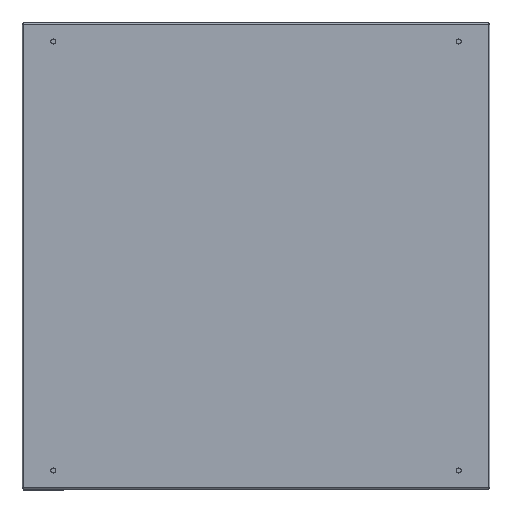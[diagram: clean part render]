
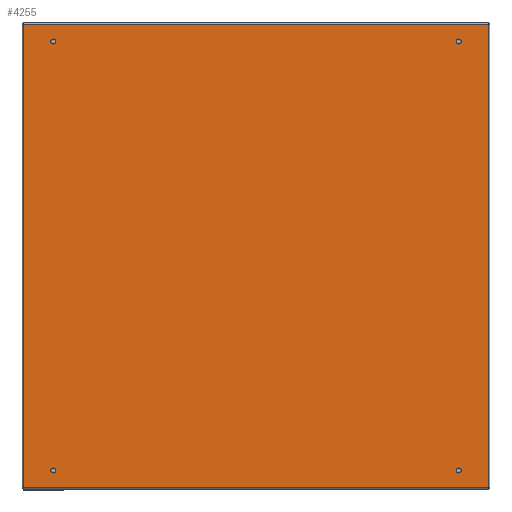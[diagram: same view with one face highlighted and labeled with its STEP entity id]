
A CAD part, front view. The second image highlights one B-rep face of the part: STEP entity #4255.
In plain terms, the highlighted planar face has unit normal (0, -1, 0).
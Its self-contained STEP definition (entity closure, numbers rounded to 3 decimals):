
#48 = AXIS2_PLACEMENT_3D ( 'NONE', #631, #7731, #7818 ) ;
#219 = VECTOR ( 'NONE', #1677, 1000. ) ;
#253 = CIRCLE ( 'NONE', #9422, 3.25 ) ;
#308 = CARTESIAN_POINT ( 'NONE',  ( 297.8, 0., -296.8 ) ) ;
#312 = CIRCLE ( 'NONE', #10529, 3.25 ) ;
#330 = CARTESIAN_POINT ( 'NONE',  ( 297.8, 0., 296.8 ) ) ;
#631 = CARTESIAN_POINT ( 'NONE',  ( -260., 0., 275. ) ) ;
#857 = DIRECTION ( 'NONE',  ( -1., 0., 0. ) ) ;
#915 = CARTESIAN_POINT ( 'NONE',  ( -297.8, 0., -296.8 ) ) ;
#940 = DIRECTION ( 'NONE',  ( 0., 1., 0. ) ) ;
#1231 = DIRECTION ( 'NONE',  ( -1., 0., 0. ) ) ;
#1263 = CARTESIAN_POINT ( 'NONE',  ( 297.8, 0., -296.8 ) ) ;
#1343 = DIRECTION ( 'NONE',  ( 0., 0., 1. ) ) ;
#1460 = ORIENTED_EDGE ( 'NONE', *, *, #8075, .T. ) ;
#1484 = CARTESIAN_POINT ( 'NONE',  ( -263.25, 0., -275. ) ) ;
#1516 = CARTESIAN_POINT ( 'NONE',  ( 260., 0., 275. ) ) ;
#1522 = CARTESIAN_POINT ( 'NONE',  ( -297.8, 0., -299. ) ) ;
#1549 = ORIENTED_EDGE ( 'NONE', *, *, #3512, .T. ) ;
#1573 = DIRECTION ( 'NONE',  ( 0., 1., 0. ) ) ;
#1677 = DIRECTION ( 'NONE',  ( 1., 0., 0. ) ) ;
#1757 = FACE_BOUND ( 'NONE', #6972, .T. ) ;
#1905 = CARTESIAN_POINT ( 'NONE',  ( -297.8, 0., -296.8 ) ) ;
#2018 = EDGE_LOOP ( 'NONE', ( #7969, #11475, #5929, #9645 ) ) ;
#2531 = EDGE_CURVE ( 'NONE', #6695, #4219, #4024, .T. ) ;
#2709 = LINE ( 'NONE', #1263, #5961 ) ;
#2750 = DIRECTION ( 'NONE',  ( -1., 0., 0. ) ) ;
#2878 = FACE_BOUND ( 'NONE', #8338, .T. ) ;
#2989 = CIRCLE ( 'NONE', #8551, 3.25 ) ;
#3113 = CARTESIAN_POINT ( 'NONE',  ( 260., 0., -275. ) ) ;
#3171 = LINE ( 'NONE', #915, #219 ) ;
#3220 = CARTESIAN_POINT ( 'NONE',  ( 263.25, 0., 275. ) ) ;
#3319 = AXIS2_PLACEMENT_3D ( 'NONE', #1516, #8303, #1231 ) ;
#3402 = ORIENTED_EDGE ( 'NONE', *, *, #8201, .T. ) ;
#3421 = DIRECTION ( 'NONE',  ( 0., 1., 0. ) ) ;
#3454 = EDGE_CURVE ( 'NONE', #4219, #6695, #253, .T. ) ;
#3512 = EDGE_CURVE ( 'NONE', #11310, #6398, #7029, .T. ) ;
#3564 = FACE_BOUND ( 'NONE', #9078, .T. ) ;
#3583 = EDGE_CURVE ( 'NONE', #6398, #11310, #3890, .T. ) ;
#3656 = CARTESIAN_POINT ( 'NONE',  ( 260., 0., -275. ) ) ;
#3669 = EDGE_CURVE ( 'NONE', #10240, #6084, #11421, .T. ) ;
#3692 = CIRCLE ( 'NONE', #48, 3.25 ) ;
#3762 = ORIENTED_EDGE ( 'NONE', *, *, #2531, .T. ) ;
#3890 = CIRCLE ( 'NONE', #3319, 3.25 ) ;
#3893 = VECTOR ( 'NONE', #5270, 1000. ) ;
#4024 = CIRCLE ( 'NONE', #11529, 3.25 ) ;
#4094 = CARTESIAN_POINT ( 'NONE',  ( 263.25, 0., -275. ) ) ;
#4219 = VERTEX_POINT ( 'NONE', #1484 ) ;
#4255 = ADVANCED_FACE ( 'NONE', ( #8109, #10121, #1757, #3564, #2878 ), #5998, .T. ) ;
#4305 = CARTESIAN_POINT ( 'NONE',  ( -297.8, 0., -296.8 ) ) ;
#4678 = ORIENTED_EDGE ( 'NONE', *, *, #8062, .T. ) ;
#4943 = ORIENTED_EDGE ( 'NONE', *, *, #8065, .T. ) ;
#5161 = DIRECTION ( 'NONE',  ( 1., 0., 0. ) ) ;
#5270 = DIRECTION ( 'NONE',  ( 0., 0., 1. ) ) ;
#5929 = ORIENTED_EDGE ( 'NONE', *, *, #3669, .T. ) ;
#5961 = VECTOR ( 'NONE', #1343, 1000. ) ;
#5979 = ORIENTED_EDGE ( 'NONE', *, *, #3454, .T. ) ;
#5998 = PLANE ( 'NONE',  #9940 ) ;
#6084 = VERTEX_POINT ( 'NONE', #10766 ) ;
#6385 = VERTEX_POINT ( 'NONE', #9570 ) ;
#6398 = VERTEX_POINT ( 'NONE', #3220 ) ;
#6480 = DIRECTION ( 'NONE',  ( -1., 0., 0. ) ) ;
#6520 = CARTESIAN_POINT ( 'NONE',  ( 297.8, 0., 296.8 ) ) ;
#6664 = EDGE_CURVE ( 'NONE', #10847, #6084, #8877, .T. ) ;
#6695 = VERTEX_POINT ( 'NONE', #7146 ) ;
#6729 = DIRECTION ( 'NONE',  ( 0., 1., 0. ) ) ;
#6972 = EDGE_LOOP ( 'NONE', ( #4943, #1460 ) ) ;
#7029 = CIRCLE ( 'NONE', #8180, 3.25 ) ;
#7146 = CARTESIAN_POINT ( 'NONE',  ( -256.75, 0., -275. ) ) ;
#7731 = DIRECTION ( 'NONE',  ( 0., 1., 0. ) ) ;
#7801 = DIRECTION ( 'NONE',  ( 1., 0., 0. ) ) ;
#7818 = DIRECTION ( 'NONE',  ( 1., 0., 0. ) ) ;
#7854 = VECTOR ( 'NONE', #6480, 1000. ) ;
#7969 = ORIENTED_EDGE ( 'NONE', *, *, #11700, .T. ) ;
#8062 = EDGE_CURVE ( 'NONE', #10869, #11634, #2989, .T. ) ;
#8065 = EDGE_CURVE ( 'NONE', #6385, #10409, #8819, .T. ) ;
#8075 = EDGE_CURVE ( 'NONE', #10409, #6385, #3692, .T. ) ;
#8109 = FACE_OUTER_BOUND ( 'NONE', #2018, .T. ) ;
#8180 = AXIS2_PLACEMENT_3D ( 'NONE', #11601, #3421, #857 ) ;
#8201 = EDGE_CURVE ( 'NONE', #11634, #10869, #312, .T. ) ;
#8303 = DIRECTION ( 'NONE',  ( 0., 1., 0. ) ) ;
#8338 = EDGE_LOOP ( 'NONE', ( #4678, #3402 ) ) ;
#8551 = AXIS2_PLACEMENT_3D ( 'NONE', #3113, #6729, #10422 ) ;
#8819 = CIRCLE ( 'NONE', #10819, 3.25 ) ;
#8877 = LINE ( 'NONE', #4305, #3893 ) ;
#8949 = VERTEX_POINT ( 'NONE', #308 ) ;
#9078 = EDGE_LOOP ( 'NONE', ( #1549, #9629 ) ) ;
#9246 = EDGE_LOOP ( 'NONE', ( #3762, #5979 ) ) ;
#9422 = AXIS2_PLACEMENT_3D ( 'NONE', #11403, #9583, #5161 ) ;
#9471 = CARTESIAN_POINT ( 'NONE',  ( -260., 0., 275. ) ) ;
#9570 = CARTESIAN_POINT ( 'NONE',  ( -256.75, 0., 275. ) ) ;
#9583 = DIRECTION ( 'NONE',  ( 0., 1., 0. ) ) ;
#9629 = ORIENTED_EDGE ( 'NONE', *, *, #3583, .T. ) ;
#9645 = ORIENTED_EDGE ( 'NONE', *, *, #6664, .F. ) ;
#9756 = CARTESIAN_POINT ( 'NONE',  ( -260., 0., -275. ) ) ;
#9940 = AXIS2_PLACEMENT_3D ( 'NONE', #1522, #10659, #11525 ) ;
#10121 = FACE_BOUND ( 'NONE', #9246, .T. ) ;
#10240 = VERTEX_POINT ( 'NONE', #330 ) ;
#10296 = DIRECTION ( 'NONE',  ( 0., 1., 0. ) ) ;
#10383 = DIRECTION ( 'NONE',  ( 1., 0., 0. ) ) ;
#10409 = VERTEX_POINT ( 'NONE', #11412 ) ;
#10422 = DIRECTION ( 'NONE',  ( -1., 0., 0. ) ) ;
#10529 = AXIS2_PLACEMENT_3D ( 'NONE', #3656, #940, #2750 ) ;
#10659 = DIRECTION ( 'NONE',  ( 0., -1., 0. ) ) ;
#10766 = CARTESIAN_POINT ( 'NONE',  ( -297.8, 0., 296.8 ) ) ;
#10819 = AXIS2_PLACEMENT_3D ( 'NONE', #9471, #10296, #10383 ) ;
#10847 = VERTEX_POINT ( 'NONE', #1905 ) ;
#10869 = VERTEX_POINT ( 'NONE', #10907 ) ;
#10907 = CARTESIAN_POINT ( 'NONE',  ( 256.75, 0., -275. ) ) ;
#10937 = CARTESIAN_POINT ( 'NONE',  ( 256.75, 0., 275. ) ) ;
#10988 = EDGE_CURVE ( 'NONE', #8949, #10240, #2709, .T. ) ;
#11310 = VERTEX_POINT ( 'NONE', #10937 ) ;
#11403 = CARTESIAN_POINT ( 'NONE',  ( -260., 0., -275. ) ) ;
#11412 = CARTESIAN_POINT ( 'NONE',  ( -263.25, 0., 275. ) ) ;
#11421 = LINE ( 'NONE', #6520, #7854 ) ;
#11475 = ORIENTED_EDGE ( 'NONE', *, *, #10988, .T. ) ;
#11525 = DIRECTION ( 'NONE',  ( -1., 0., 0. ) ) ;
#11529 = AXIS2_PLACEMENT_3D ( 'NONE', #9756, #1573, #7801 ) ;
#11601 = CARTESIAN_POINT ( 'NONE',  ( 260., 0., 275. ) ) ;
#11634 = VERTEX_POINT ( 'NONE', #4094 ) ;
#11700 = EDGE_CURVE ( 'NONE', #10847, #8949, #3171, .T. ) ;
